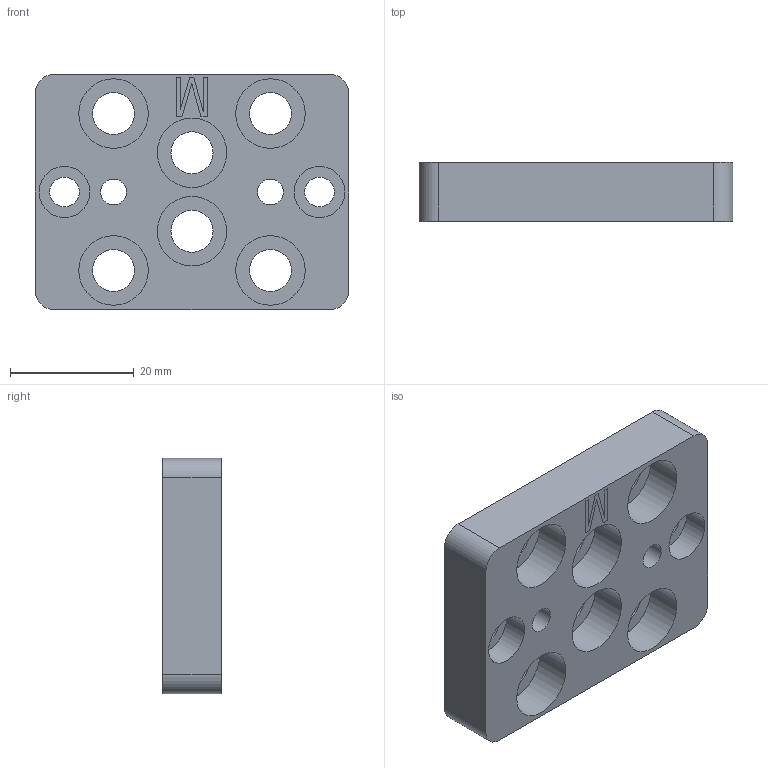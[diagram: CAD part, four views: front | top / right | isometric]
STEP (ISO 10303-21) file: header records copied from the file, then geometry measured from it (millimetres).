
FILE_DESCRIPTION (( 'STEP AP203' ), '1' );
FILE_NAME ('SLM-663XS-AI.STEP', '2019-10-25T13:02:22', ( '' ), ( '' ), 'SwSTEP 2.0', 'SolidWorks 2019', '' );
FILE_SCHEMA (( 'CONFIG_CONTROL_DESIGN' ));
Length unit declared in the file: inch
Products named in the file (1): SLM-663XS-AI
Bounding box: 50.8 x 9.53 x 38.1 mm (x, y, z)
Volume: 13100.8 mm3; surface area: 7285.5 mm2
Topology: 1 solids, 1 shells, 37 faces, 93 edges, 67 vertices
Faces by surface type: cylinder 22, plane 15
Full cylindrical faces by diameter (mm): 4.2 x2, 4.8 x2, 6.8 x6, 8.25 x2, 11.25 x6
Entity records: 1188 total; most frequent: DIRECTION 194, CARTESIAN_POINT 190, ORIENTED_EDGE 150, EDGE_LOOP 84, AXIS2_PLACEMENT_3D 82, EDGE_CURVE 75, VERTEX_POINT 67, FACE_OUTER_BOUND 55
